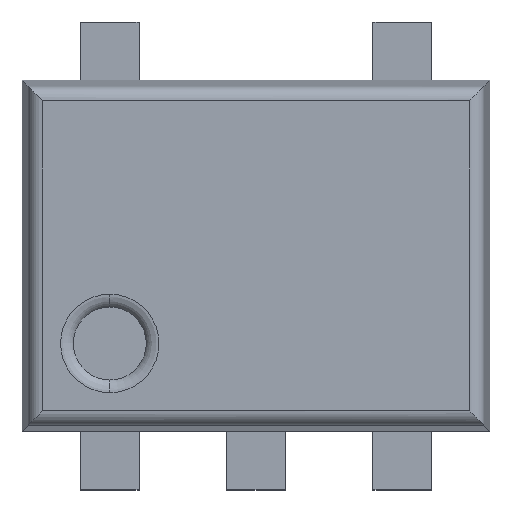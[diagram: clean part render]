
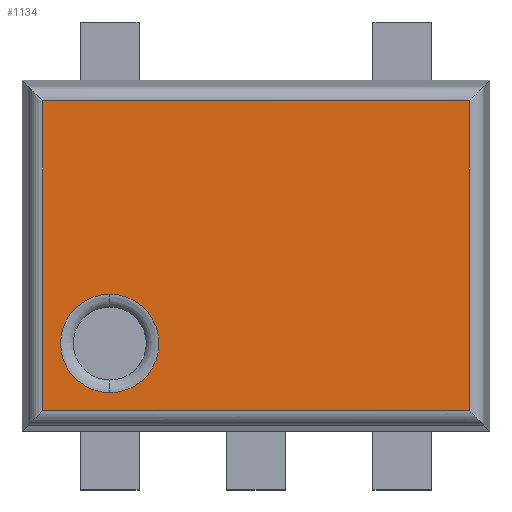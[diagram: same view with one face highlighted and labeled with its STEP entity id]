
A CAD part, top view. The second image highlights one B-rep face of the part: STEP entity #1134.
In plain terms, the highlighted planar face has unit normal (0, 0, 1).
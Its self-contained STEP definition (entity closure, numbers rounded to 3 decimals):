
#917 = CARTESIAN_POINT ( 'NONE',  ( -0.5, -0.132, 0.6 ) ) ;
#918 = VERTEX_POINT ( 'NONE', #917 ) ;
#919 = CARTESIAN_POINT ( 'NONE',  ( -0.5, -0.468, 0.6 ) ) ;
#920 = VERTEX_POINT ( 'NONE', #919 ) ;
#921 = CARTESIAN_POINT ( 'NONE',  ( -0.5, -0.3, 0.6 ) ) ;
#922 = DIRECTION ( 'NONE',  ( 0., 0., -1. ) ) ;
#923 = DIRECTION ( 'NONE',  ( 0., -1., 0. ) ) ;
#924 = AXIS2_PLACEMENT_3D ( 'NONE', #921, #922, #923 ) ;
#925 = CIRCLE ( 'NONE', #924, 0.168) ;
#926 = EDGE_CURVE ( 'NONE', #918, #920, #925, .T. ) ;
#1085 = CARTESIAN_POINT ( 'NONE',  ( -0.73, 0.53, 0.6 ) ) ;
#1086 = VERTEX_POINT ( 'NONE', #1085 ) ;
#1087 = CARTESIAN_POINT ( 'NONE',  ( -0.73, -0.53, 0.6 ) ) ;
#1088 = VERTEX_POINT ( 'NONE', #1087 ) ;
#1089 = CARTESIAN_POINT ( 'NONE',  ( -0.73, 0.6, 0.6 ) ) ;
#1090 = DIRECTION ( 'NONE',  ( 0., -1., 0. ) ) ;
#1091 = VECTOR ( 'NONE', #1090, 1000. ) ;
#1092 = LINE ( 'NONE', #1089, #1091 ) ;
#1093 = EDGE_CURVE ( 'NONE', #1086, #1088, #1092, .T. ) ;
#1094 = ORIENTED_EDGE ( 'NONE', *, *, #1093, .T. ) ;
#1095 = CARTESIAN_POINT ( 'NONE',  ( 0.73, -0.53, 0.6 ) ) ;
#1096 = VERTEX_POINT ( 'NONE', #1095 ) ;
#1097 = CARTESIAN_POINT ( 'NONE',  ( -0.8, -0.53, 0.6 ) ) ;
#1098 = DIRECTION ( 'NONE',  ( 1., 0., 0. ) ) ;
#1099 = VECTOR ( 'NONE', #1098, 1000. ) ;
#1100 = LINE ( 'NONE', #1097, #1099 ) ;
#1101 = EDGE_CURVE ( 'NONE', #1088, #1096, #1100, .T. ) ;
#1102 = ORIENTED_EDGE ( 'NONE', *, *, #1101, .T. ) ;
#1103 = CARTESIAN_POINT ( 'NONE',  ( 0.73, 0.53, 0.6 ) ) ;
#1104 = VERTEX_POINT ( 'NONE', #1103 ) ;
#1105 = CARTESIAN_POINT ( 'NONE',  ( 0.73, 0.6, 0.6 ) ) ;
#1106 = DIRECTION ( 'NONE',  ( 0., 1., 0. ) ) ;
#1107 = VECTOR ( 'NONE', #1106, 1000. ) ;
#1108 = LINE ( 'NONE', #1105, #1107 ) ;
#1109 = EDGE_CURVE ( 'NONE', #1096, #1104, #1108, .T. ) ;
#1110 = ORIENTED_EDGE ( 'NONE', *, *, #1109, .T. ) ;
#1111 = CARTESIAN_POINT ( 'NONE',  ( -0.8, 0.53, 0.6 ) ) ;
#1112 = DIRECTION ( 'NONE',  ( -1., 0., 0. ) ) ;
#1113 = VECTOR ( 'NONE', #1112, 1000. ) ;
#1114 = LINE ( 'NONE', #1111, #1113 ) ;
#1115 = EDGE_CURVE ( 'NONE', #1104, #1086, #1114, .T. ) ;
#1116 = ORIENTED_EDGE ( 'NONE', *, *, #1115, .T. ) ;
#1117 = EDGE_LOOP ( 'NONE', ( #1094, #1102, #1110, #1116 ) ) ;
#1118 = FACE_OUTER_BOUND ( 'NONE', #1117, .T. ) ;
#1119 = CARTESIAN_POINT ( 'NONE',  ( -0.5, -0.3, 0.6 ) ) ;
#1120 = DIRECTION ( 'NONE',  ( 0., 0., -1. ) ) ;
#1121 = DIRECTION ( 'NONE',  ( 0., -1., 0. ) ) ;
#1122 = AXIS2_PLACEMENT_3D ( 'NONE', #1119, #1120, #1121 ) ;
#1123 = CIRCLE ( 'NONE', #1122, 0.168) ;
#1124 = EDGE_CURVE ( 'NONE', #920, #918, #1123, .T. ) ;
#1125 = ORIENTED_EDGE ( 'NONE', *, *, #1124, .T. ) ;
#1126 = ORIENTED_EDGE ( 'NONE', *, *, #926, .T. ) ;
#1127 = EDGE_LOOP ( 'NONE', ( #1125, #1126 ) ) ;
#1128 = FACE_BOUND ( 'NONE', #1127, .T. ) ;
#1129 = CARTESIAN_POINT ( 'NONE',  ( -0.8, 0.6, 0.6 ) ) ;
#1130 = DIRECTION ( 'NONE',  ( 0., 0., 1. ) ) ;
#1131 = DIRECTION ( 'NONE',  ( 0., -1., 0. ) ) ;
#1132 = AXIS2_PLACEMENT_3D ( 'NONE', #1129, #1130, #1131 ) ;
#1133 = PLANE ( 'NONE', #1132 ) ;
#1134 = ADVANCED_FACE ( 'NONE', ( #1118, #1128 ), #1133, .T. ) ;
